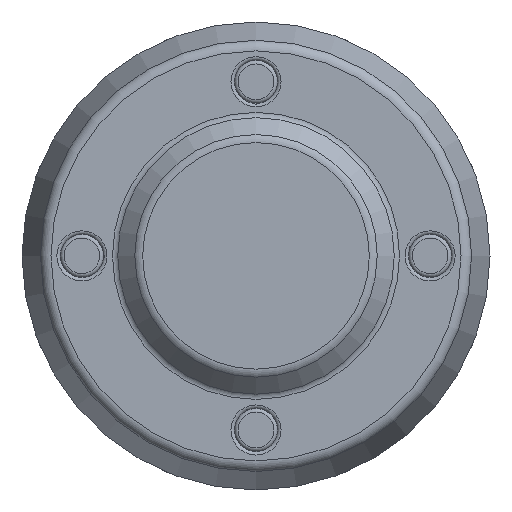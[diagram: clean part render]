
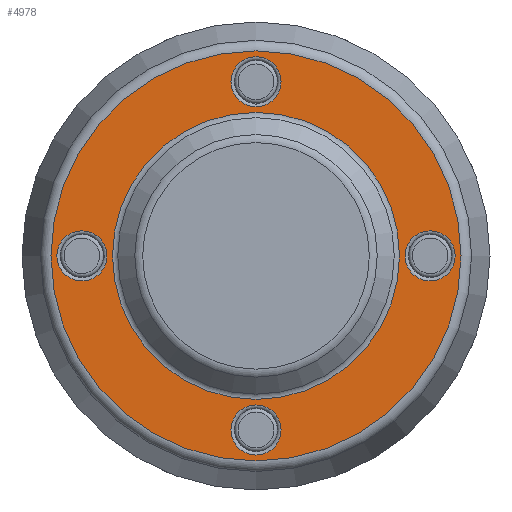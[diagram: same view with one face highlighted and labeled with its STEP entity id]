
A CAD part, top view. The second image highlights one B-rep face of the part: STEP entity #4978.
In plain terms, the highlighted planar face has unit normal (0, 0, 1).
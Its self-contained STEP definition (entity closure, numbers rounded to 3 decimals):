
#4978=ADVANCED_FACE('',(#14879,#14881,#14883,#14885,#14887,#14889),#14891,.T.);
#14879=FACE_BOUND('',#14880,.T.);
#14880=EDGE_LOOP('',(#74327));
#14881=FACE_BOUND('',#14882,.T.);
#14882=EDGE_LOOP('',(#74328));
#14883=FACE_BOUND('',#14884,.T.);
#14884=EDGE_LOOP('',(#74329));
#14885=FACE_BOUND('',#14886,.T.);
#14886=EDGE_LOOP('',(#74330));
#14887=FACE_BOUND('',#14888,.T.);
#14888=EDGE_LOOP('',(#74331));
#14889=FACE_BOUND('',#14890,.T.);
#14890=EDGE_LOOP('',(#74332));
#14891=PLANE('',#14892);
#14892=AXIS2_PLACEMENT_3D('',#14893,#14894,#14895);
#14893=CARTESIAN_POINT('',(0.,0.,-12.));
#14894=DIRECTION('',(0.,0.,1.));
#14895=DIRECTION('',(-1.,0.,0.));
#74327=ORIENTED_EDGE('',*,*,#79309,.F.);
#74328=ORIENTED_EDGE('',*,*,#79310,.F.);
#74329=ORIENTED_EDGE('',*,*,#79311,.F.);
#74330=ORIENTED_EDGE('',*,*,#79312,.T.);
#74331=ORIENTED_EDGE('',*,*,#79313,.F.);
#74332=ORIENTED_EDGE('',*,*,#79314,.F.);
#79309=EDGE_CURVE('',#84295,#84295,#84296,.T.);
#79310=EDGE_CURVE('',#84297,#84297,#84298,.F.);
#79311=EDGE_CURVE('',#84299,#84299,#84300,.F.);
#79312=EDGE_CURVE('',#84301,#84301,#84302,.T.);
#79313=EDGE_CURVE('',#84303,#84303,#84304,.F.);
#79314=EDGE_CURVE('',#84305,#84305,#84306,.F.);
#84295=VERTEX_POINT('',#113112);
#84296=CIRCLE('',#113113,109.516);
#84297=VERTEX_POINT('',#113117);
#84298=CIRCLE('',#113118,13.4);
#84299=VERTEX_POINT('',#113122);
#84300=CIRCLE('',#113123,13.4);
#84301=VERTEX_POINT('',#113127);
#84302=CIRCLE('',#113128,76.657);
#84303=VERTEX_POINT('',#113132);
#84304=CIRCLE('',#113133,13.4);
#84305=VERTEX_POINT('',#113137);
#84306=CIRCLE('',#113138,13.4);
#113112=CARTESIAN_POINT('',(-109.516,0.,-12.));
#113113=AXIS2_PLACEMENT_3D('',#113114,#113115,#113116);
#113114=CARTESIAN_POINT('',(0.,0.,-12.));
#113115=DIRECTION('',(0.,0.,-1.));
#113116=DIRECTION('',(-1.,0.,0.));
#113117=CARTESIAN_POINT('',(0.,106.4,-12.));
#113118=AXIS2_PLACEMENT_3D('',#113119,#113120,#113121);
#113119=CARTESIAN_POINT('',(0.,93.,-12.));
#113120=DIRECTION('',(0.,0.,-1.));
#113121=DIRECTION('',(0.,1.,0.));
#113122=CARTESIAN_POINT('',(0.,-106.4,-12.));
#113123=AXIS2_PLACEMENT_3D('',#113124,#113125,#113126);
#113124=CARTESIAN_POINT('',(0.,-93.,-12.));
#113125=DIRECTION('',(0.,0.,-1.));
#113126=DIRECTION('',(0.,-1.,0.));
#113127=CARTESIAN_POINT('',(-76.657,0.,-12.));
#113128=AXIS2_PLACEMENT_3D('',#113129,#113130,#113131);
#113129=CARTESIAN_POINT('',(0.,0.,-12.));
#113130=DIRECTION('',(0.,0.,-1.));
#113131=DIRECTION('',(-1.,0.,0.));
#113132=CARTESIAN_POINT('',(-106.4,0.,-12.));
#113133=AXIS2_PLACEMENT_3D('',#113134,#113135,#113136);
#113134=CARTESIAN_POINT('',(-93.,0.,-12.));
#113135=DIRECTION('',(0.,0.,-1.));
#113136=DIRECTION('',(-1.,0.,0.));
#113137=CARTESIAN_POINT('',(106.4,0.,-12.));
#113138=AXIS2_PLACEMENT_3D('',#113139,#113140,#113141);
#113139=CARTESIAN_POINT('',(93.,0.,-12.));
#113140=DIRECTION('',(0.,0.,-1.));
#113141=DIRECTION('',(1.,0.,0.));
